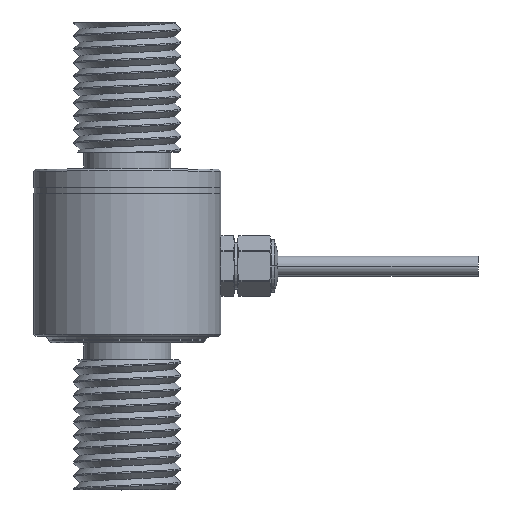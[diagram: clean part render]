
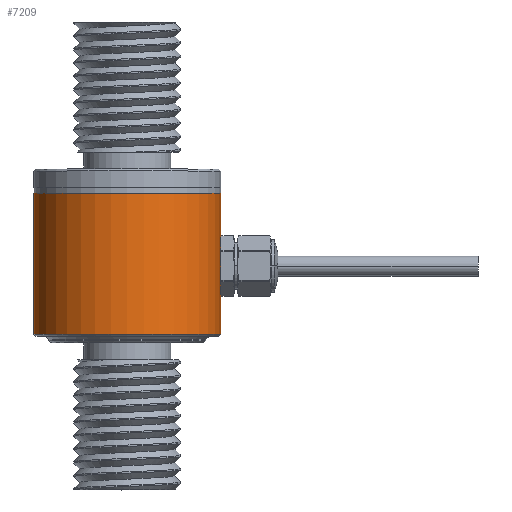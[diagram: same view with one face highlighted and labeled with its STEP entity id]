
A CAD part, top view. The second image highlights one B-rep face of the part: STEP entity #7209.
In plain terms, the highlighted cylindrical face has radius 14 mm (diameter 28 mm), a partial arc.
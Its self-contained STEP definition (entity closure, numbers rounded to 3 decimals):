
#21 = EDGE_CURVE ( 'NONE', #7266, #2260, #6573, .T. ) ;
#382 = B_SPLINE_CURVE_WITH_KNOTS ( 'NONE', 3,
 ( #5682, #3303, #5600, #5106 ),
 .UNSPECIFIED., .F., .F.,
 ( 4, 4 ),
 ( 0.5, 1. ),
 .UNSPECIFIED. ) ;
#573 = VECTOR ( 'NONE', #6968, 1000. ) ;
#635 = ORIENTED_EDGE ( 'NONE', *, *, #682, .T. ) ;
#678 = AXIS2_PLACEMENT_3D ( 'NONE', #4444, #3990, #6308 ) ;
#682 = EDGE_CURVE ( 'NONE', #2601, #7326, #382, .T. ) ;
#741 = CARTESIAN_POINT ( 'NONE',  ( 14., 3.052, 0.017 ) ) ;
#809 = AXIS2_PLACEMENT_3D ( 'NONE', #1762, #6495, #4712 ) ;
#838 = ORIENTED_EDGE ( 'NONE', *, *, #21, .F. ) ;
#1069 = ORIENTED_EDGE ( 'NONE', *, *, #6966, .F. ) ;
#1367 = LINE ( 'NONE', #1403, #3109 ) ;
#1403 = CARTESIAN_POINT ( 'NONE',  ( -14., 35.002, 0. ) ) ;
#1674 = EDGE_CURVE ( 'NONE', #2363, #2260, #1908, .T. ) ;
#1762 = CARTESIAN_POINT ( 'NONE',  ( 0., -11.698, 0. ) ) ;
#1908 = LINE ( 'NONE', #4217, #7497 ) ;
#1941 = VECTOR ( 'NONE', #5994, 1000. ) ;
#2018 = DIRECTION ( 'NONE',  ( 0., 1., 0. ) ) ;
#2135 = FACE_OUTER_BOUND ( 'NONE', #6057, .T. ) ;
#2260 = VERTEX_POINT ( 'NONE', #5043 ) ;
#2343 = CARTESIAN_POINT ( 'NONE',  ( 0., 9.4, 0. ) ) ;
#2363 = VERTEX_POINT ( 'NONE', #6412 ) ;
#2601 = VERTEX_POINT ( 'NONE', #4880 ) ;
#2919 = EDGE_CURVE ( 'NONE', #7169, #2601, #6782, .T. ) ;
#2995 = CARTESIAN_POINT ( 'NONE',  ( 14., 3.051, 0.035 ) ) ;
#3071 = CARTESIAN_POINT ( 'NONE',  ( 14., 3.052, 0. ) ) ;
#3109 = VECTOR ( 'NONE', #2018, 1000. ) ;
#3303 = CARTESIAN_POINT ( 'NONE',  ( 14., -6.048, 0.017 ) ) ;
#3317 = CYLINDRICAL_SURFACE ( 'NONE', #678, 14. ) ;
#3773 = ORIENTED_EDGE ( 'NONE', *, *, #2919, .T. ) ;
#3946 = B_SPLINE_CURVE_WITH_KNOTS ( 'NONE', 3,
 ( #4314, #2995, #741, #3071 ),
 .UNSPECIFIED., .F., .F.,
 ( 4, 4 ),
 ( 0., 0.5 ),
 .UNSPECIFIED. ) ;
#3990 = DIRECTION ( 'NONE',  ( 0., 1., 0. ) ) ;
#3993 = ORIENTED_EDGE ( 'NONE', *, *, #5926, .T. ) ;
#4217 = CARTESIAN_POINT ( 'NONE',  ( 14., 35.002, 0. ) ) ;
#4221 = EDGE_CURVE ( 'NONE', #7147, #2363, #3946, .T. ) ;
#4314 = CARTESIAN_POINT ( 'NONE',  ( 14., 3.051, 0.052 ) ) ;
#4444 = CARTESIAN_POINT ( 'NONE',  ( 0., 35.002, 0. ) ) ;
#4557 = VERTEX_POINT ( 'NONE', #5255 ) ;
#4639 = LINE ( 'NONE', #5171, #573 ) ;
#4642 = DIRECTION ( 'NONE',  ( 0., 1., 0. ) ) ;
#4676 = DIRECTION ( 'NONE',  ( -1., 0., 0. ) ) ;
#4712 = DIRECTION ( 'NONE',  ( 1., 0., 0. ) ) ;
#4732 = CARTESIAN_POINT ( 'NONE',  ( 14., -6.048, 0.052 ) ) ;
#4880 = CARTESIAN_POINT ( 'NONE',  ( 14., -6.048, 0. ) ) ;
#5043 = CARTESIAN_POINT ( 'NONE',  ( 14., 9.4, 0. ) ) ;
#5106 = CARTESIAN_POINT ( 'NONE',  ( 14., -6.048, 0.052 ) ) ;
#5122 = CARTESIAN_POINT ( 'NONE',  ( 14., 3.051, 0.052 ) ) ;
#5157 = CARTESIAN_POINT ( 'NONE',  ( -14., 9.4, 0. ) ) ;
#5171 = CARTESIAN_POINT ( 'NONE',  ( 14., 35.002, 0.052 ) ) ;
#5255 = CARTESIAN_POINT ( 'NONE',  ( -14., -11.698, 0. ) ) ;
#5321 = ORIENTED_EDGE ( 'NONE', *, *, #5407, .T. ) ;
#5407 = EDGE_CURVE ( 'NONE', #7326, #7147, #4639, .T. ) ;
#5600 = CARTESIAN_POINT ( 'NONE',  ( 14., -6.048, 0.035 ) ) ;
#5682 = CARTESIAN_POINT ( 'NONE',  ( 14., -6.048, 0. ) ) ;
#5926 = EDGE_CURVE ( 'NONE', #4557, #7169, #6150, .T. ) ;
#5994 = DIRECTION ( 'NONE',  ( 0., 1., 0. ) ) ;
#6057 = EDGE_LOOP ( 'NONE', ( #3993, #3773, #635, #5321, #6791, #6102, #838, #1069 ) ) ;
#6079 = AXIS2_PLACEMENT_3D ( 'NONE', #2343, #4642, #4676 ) ;
#6102 = ORIENTED_EDGE ( 'NONE', *, *, #1674, .T. ) ;
#6150 = CIRCLE ( 'NONE', #809, 14. ) ;
#6269 = CARTESIAN_POINT ( 'NONE',  ( 14., -11.698, 0. ) ) ;
#6308 = DIRECTION ( 'NONE',  ( -1., 0., 0. ) ) ;
#6412 = CARTESIAN_POINT ( 'NONE',  ( 14., 3.052, 0. ) ) ;
#6495 = DIRECTION ( 'NONE',  ( 0., 1., 0. ) ) ;
#6534 = DIRECTION ( 'NONE',  ( 0., 1., 0. ) ) ;
#6573 = CIRCLE ( 'NONE', #6079, 14. ) ;
#6612 = CARTESIAN_POINT ( 'NONE',  ( 14., 35.002, 0. ) ) ;
#6782 = LINE ( 'NONE', #6612, #1941 ) ;
#6791 = ORIENTED_EDGE ( 'NONE', *, *, #4221, .T. ) ;
#6966 = EDGE_CURVE ( 'NONE', #4557, #7266, #1367, .T. ) ;
#6968 = DIRECTION ( 'NONE',  ( 0., 1., 0. ) ) ;
#7147 = VERTEX_POINT ( 'NONE', #5122 ) ;
#7169 = VERTEX_POINT ( 'NONE', #6269 ) ;
#7209 = ADVANCED_FACE ( 'NONE', ( #2135 ), #3317, .T. ) ;
#7266 = VERTEX_POINT ( 'NONE', #5157 ) ;
#7326 = VERTEX_POINT ( 'NONE', #4732 ) ;
#7497 = VECTOR ( 'NONE', #6534, 1000. ) ;
